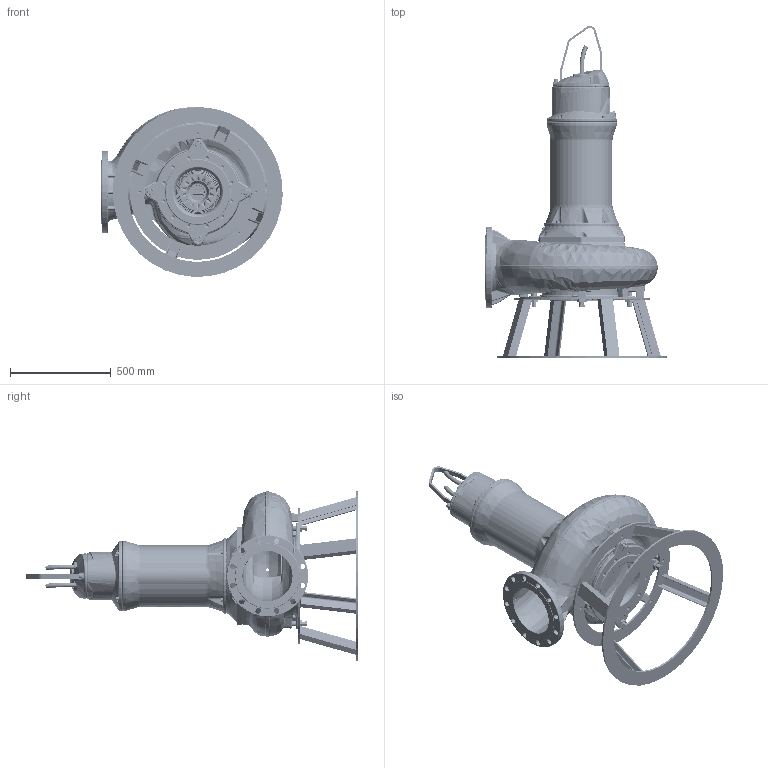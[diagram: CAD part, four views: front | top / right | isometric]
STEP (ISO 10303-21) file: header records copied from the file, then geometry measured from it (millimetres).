
FILE_DESCRIPTION (( 'STEP AP214' ), '1' );
FILE_NAME ('CFP 250J-CB2 SE3 Transportable.STEP', '2020-09-21T08:14:49', ( '' ), ( '' ), 'SwSTEP 2.0', 'SolidWorks 2017', '' );
FILE_SCHEMA (( 'AUTOMOTIVE_DESIGN' ));
Length unit declared in the file: millimetre
Products named in the file (1): CFP 250J-CB2 SE3 Transportable
Bounding box: 902.1 x 1650.9 x 844.45 mm (x, y, z)
Volume: 51088937.7 mm3; surface area: 7366878 mm2
Topology: 61 solids, 61 shells, 8757 faces, 21247 edges, 12266 vertices
Faces by surface type: bspline 2442, cylinder 2307, plane 1955, torus 1040, cone 562, sphere 451
Entity records: 794256 total; most frequent: CARTESIAN_POINT 513746, ORIENTED_EDGE 40986, DIRECTION 34638, EDGE_CURVE 20493, AXIS2_PLACEMENT_3D 13949, VERTEX_POINT 12264, EDGE_LOOP 9357, UNCERTAINTY_MEASURE_WITH_UNIT 8820
